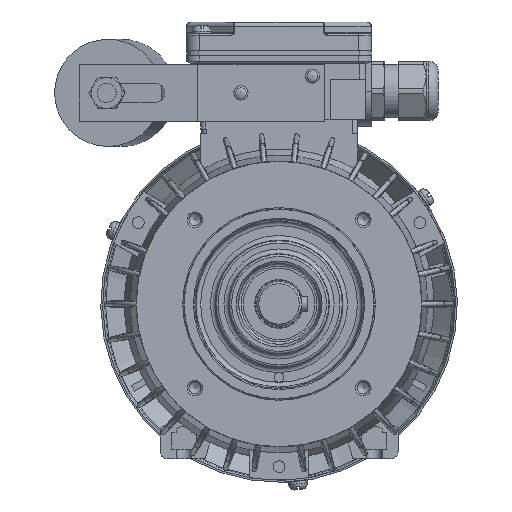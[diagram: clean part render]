
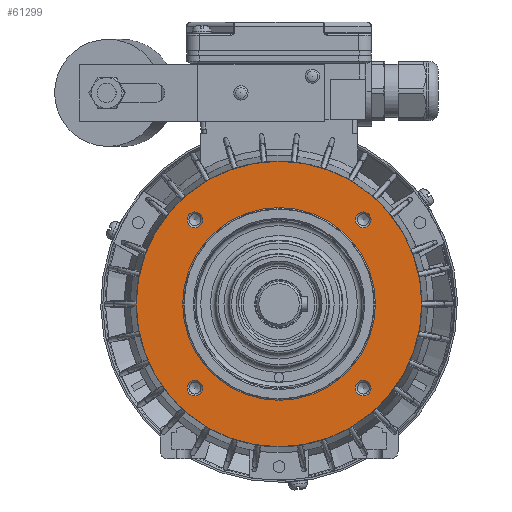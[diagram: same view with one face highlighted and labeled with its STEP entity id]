
A CAD part, left-side view. The second image highlights one B-rep face of the part: STEP entity #61299.
In plain terms, the highlighted planar face has unit normal (-1, 0, 0).
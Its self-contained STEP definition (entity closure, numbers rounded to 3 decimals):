
#15859=ORIENTED_EDGE('',*,*,#26376,.T.);
#15860=ORIENTED_EDGE('',*,*,#26375,.T.);
#15861=ORIENTED_EDGE('',*,*,#26374,.T.);
#15862=ORIENTED_EDGE('',*,*,#26373,.T.);
#15863=ORIENTED_EDGE('',*,*,#26372,.T.);
#15864=ORIENTED_EDGE('',*,*,#26393,.T.);
#26372=EDGE_CURVE('',#32185,#32185,#35587,.F.);
#26373=EDGE_CURVE('',#32186,#32186,#35588,.F.);
#26374=EDGE_CURVE('',#32187,#32187,#35589,.F.);
#26375=EDGE_CURVE('',#32188,#32188,#35590,.F.);
#26376=EDGE_CURVE('',#32189,#32189,#35591,.F.);
#26393=EDGE_CURVE('',#32206,#32206,#35596,.T.);
#32185=VERTEX_POINT('',#86643);
#32186=VERTEX_POINT('',#86646);
#32187=VERTEX_POINT('',#86649);
#32188=VERTEX_POINT('',#86652);
#32189=VERTEX_POINT('',#86655);
#32206=VERTEX_POINT('',#86778);
#35587=CIRCLE('',#64867,40.5);
#35588=CIRCLE('',#64869,3.3);
#35589=CIRCLE('',#64871,3.3);
#35590=CIRCLE('',#64873,3.3);
#35591=CIRCLE('',#64875,3.3);
#35596=CIRCLE('',#64881,60.);
#37956=EDGE_LOOP('',(#15859));
#37957=EDGE_LOOP('',(#15860));
#37958=EDGE_LOOP('',(#15861));
#37959=EDGE_LOOP('',(#15862));
#37960=EDGE_LOOP('',(#15863));
#37961=EDGE_LOOP('',(#15864));
#41013=FACE_BOUND('',#37956,.T.);
#41014=FACE_BOUND('',#37957,.T.);
#41015=FACE_BOUND('',#37958,.T.);
#41016=FACE_BOUND('',#37959,.T.);
#41017=FACE_BOUND('',#37960,.T.);
#41018=FACE_BOUND('',#37961,.T.);
#43256=PLANE('',#64880);
#61299=ADVANCED_FACE('',(#41013,#41014,#41015,#41016,#41017,#41018),#43256,
 .T.);
#64867=AXIS2_PLACEMENT_3D('',#86642,#73453,#73454);
#64869=AXIS2_PLACEMENT_3D('',#86645,#73457,#73458);
#64871=AXIS2_PLACEMENT_3D('',#86648,#73461,#73462);
#64873=AXIS2_PLACEMENT_3D('',#86651,#73465,#73466);
#64875=AXIS2_PLACEMENT_3D('',#86654,#73469,#73470);
#64880=AXIS2_PLACEMENT_3D('',#86776,#73487,#73488);
#64881=AXIS2_PLACEMENT_3D('',#86777,#73489,#73490);
#73453=DIRECTION('',(-1.,0.,0.));
#73454=DIRECTION('',(0.,0.,-1.));
#73457=DIRECTION('',(-1.,0.,0.));
#73458=DIRECTION('',(0.,0.,-1.));
#73461=DIRECTION('',(-1.,0.,0.));
#73462=DIRECTION('',(0.,0.,-1.));
#73465=DIRECTION('',(-1.,0.,0.));
#73466=DIRECTION('',(0.,0.,-1.));
#73469=DIRECTION('',(-1.,0.,0.));
#73470=DIRECTION('',(0.,0.,-1.));
#73487=DIRECTION('',(-1.,0.,0.));
#73488=DIRECTION('',(0.,0.,-1.));
#73489=DIRECTION('',(-1.,0.,0.));
#73490=DIRECTION('',(0.,0.,-1.));
#86642=CARTESIAN_POINT('',(-44.3,0.,0.));
#86643=CARTESIAN_POINT('',(-44.3,0.,-40.5));
#86645=CARTESIAN_POINT('',(-44.3,35.355,35.355));
#86646=CARTESIAN_POINT('',(-44.3,35.355,32.055));
#86648=CARTESIAN_POINT('',(-44.3,-35.355,35.355));
#86649=CARTESIAN_POINT('',(-44.3,-35.355,32.055));
#86651=CARTESIAN_POINT('',(-44.3,-35.355,-35.355));
#86652=CARTESIAN_POINT('',(-44.3,-35.355,-38.655));
#86654=CARTESIAN_POINT('',(-44.3,35.355,-35.355));
#86655=CARTESIAN_POINT('',(-44.3,35.355,-38.655));
#86776=CARTESIAN_POINT('',(-44.3,0.,40.));
#86777=CARTESIAN_POINT('',(-44.3,0.,0.));
#86778=CARTESIAN_POINT('',(-44.3,0.,-60.));
